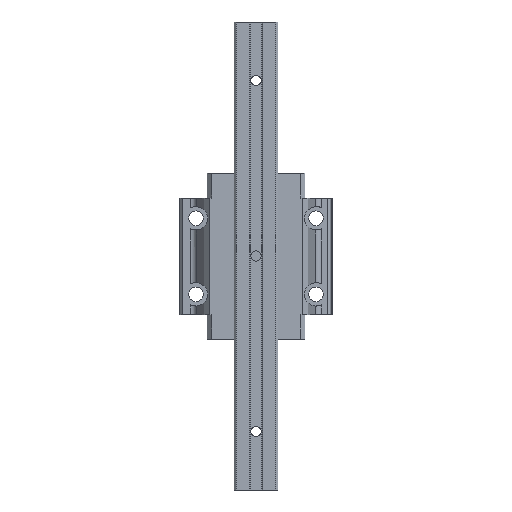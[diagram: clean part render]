
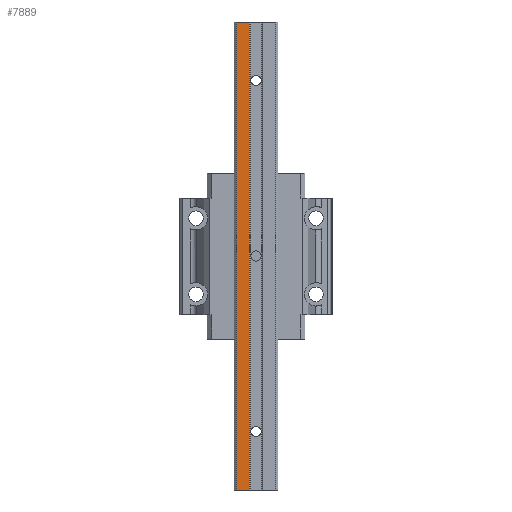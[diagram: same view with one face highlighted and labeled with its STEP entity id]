
A CAD part, front view. The second image highlights one B-rep face of the part: STEP entity #7889.
In plain terms, the highlighted planar face has unit normal (0, -1, 0).
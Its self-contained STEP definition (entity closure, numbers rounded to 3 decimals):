
#6690=DIRECTION('',(-1.,0.,0.));
#6691=VECTOR('',#6690,4.45);
#6692=CARTESIAN_POINT('',(-2.35,-24.,100.));
#6693=LINE('',#6692,#6691);
#7031=DIRECTION('',(0.,0.,-1.));
#7032=VECTOR('',#7031,160.);
#7033=CARTESIAN_POINT('',(-6.8,-24.,100.));
#7034=LINE('',#7033,#7032);
#7035=DIRECTION('',(0.,0.,-1.));
#7036=VECTOR('',#7035,160.);
#7037=CARTESIAN_POINT('',(-2.35,-24.,100.));
#7038=LINE('',#7037,#7036);
#7039=DIRECTION('',(-1.,0.,0.));
#7040=VECTOR('',#7039,4.45);
#7041=CARTESIAN_POINT('',(-2.35,-24.,-60.));
#7042=LINE('',#7041,#7040);
#7285=CARTESIAN_POINT('',(-2.35,-24.,100.));
#7286=VERTEX_POINT('',#7285);
#7287=CARTESIAN_POINT('',(-6.8,-24.,100.));
#7288=VERTEX_POINT('',#7287);
#7371=CARTESIAN_POINT('',(-6.8,-24.,-60.));
#7372=VERTEX_POINT('',#7371);
#7373=CARTESIAN_POINT('',(-2.35,-24.,-60.));
#7374=VERTEX_POINT('',#7373);
#7877=CARTESIAN_POINT('',(-2.35,-24.,50.));
#7878=DIRECTION('',(0.,-1.,0.));
#7879=DIRECTION('',(-1.,0.,0.));
#7880=AXIS2_PLACEMENT_3D('',#7877,#7878,#7879);
#7881=PLANE('',#7880);
#7882=ORIENTED_EDGE('',*,*,#7493,.F.);
#7884=ORIENTED_EDGE('',*,*,#7883,.T.);
#7885=ORIENTED_EDGE('',*,*,#7599,.T.);
#7886=ORIENTED_EDGE('',*,*,#7870,.F.);
#7887=EDGE_LOOP('',(#7882,#7884,#7885,#7886));
#7888=FACE_OUTER_BOUND('',#7887,.F.);
#7889=ADVANCED_FACE('',(#7888),#7881,.T.);
#7493=EDGE_CURVE('',#7286,#7288,#6693,.T.);
#7599=EDGE_CURVE('',#7374,#7372,#7042,.T.);
#7870=EDGE_CURVE('',#7288,#7372,#7034,.T.);
#7883=EDGE_CURVE('',#7286,#7374,#7038,.T.);
